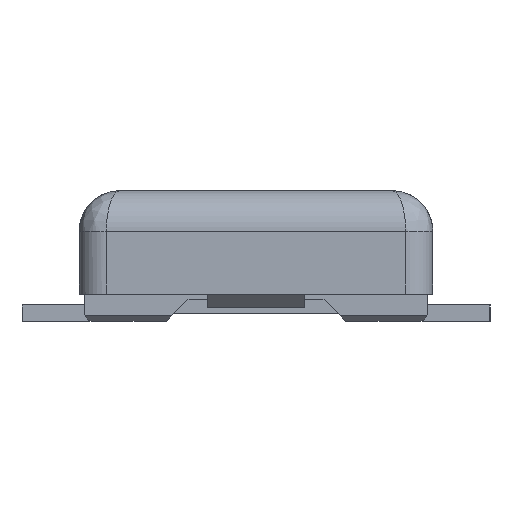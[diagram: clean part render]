
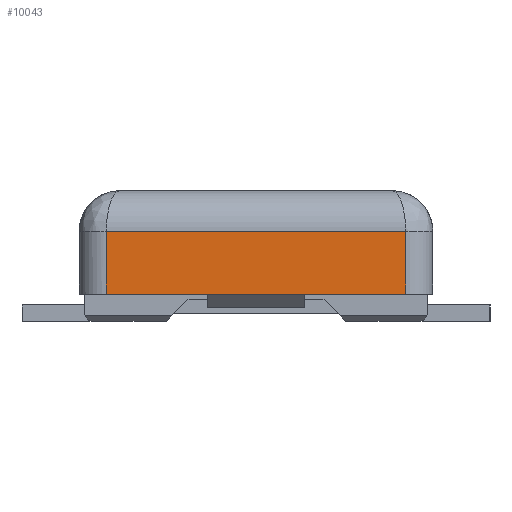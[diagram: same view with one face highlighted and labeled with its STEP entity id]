
A CAD part, left-side view. The second image highlights one B-rep face of the part: STEP entity #10043.
In plain terms, the highlighted planar face has unit normal (-1, 0, 0).
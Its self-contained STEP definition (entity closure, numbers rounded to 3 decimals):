
#10000=AXIS2_PLACEMENT_3D('Plane Axis2P3D',#9997,#9998,#9999) ;
#8671=CARTESIAN_POINT('Vertex',(-11.64,0.55,0.93)) ;
#8674=CARTESIAN_POINT('Line Origine',(-11.64,0.,0.93)) ;
#8678=CARTESIAN_POINT('Vertex',(-11.64,-0.55,0.93)) ;
#9997=CARTESIAN_POINT('Axis2P3D Location',(-11.64,0.,1.2)) ;
#10002=CARTESIAN_POINT('Line Origine',(-11.64,0.,0.7)) ;
#10006=CARTESIAN_POINT('Vertex',(-11.64,0.18,0.7)) ;
#10008=CARTESIAN_POINT('Vertex',(-11.64,-0.18,0.7)) ;
#10011=CARTESIAN_POINT('Line Origine',(-11.64,-0.365,0.7)) ;
#10015=CARTESIAN_POINT('Vertex',(-11.64,-0.55,0.7)) ;
#10018=CARTESIAN_POINT('Line Origine',(-11.64,-0.55,0.815)) ;
#10023=CARTESIAN_POINT('Line Origine',(-11.64,0.55,0.815)) ;
#10027=CARTESIAN_POINT('Vertex',(-11.64,0.55,0.7)) ;
#10030=CARTESIAN_POINT('Line Origine',(-11.64,0.365,0.7)) ;
#8675=DIRECTION('Vector Direction',(0.,-1.,0.)) ;
#9998=DIRECTION('Axis2P3D Direction',(1.,0.,0.)) ;
#9999=DIRECTION('Axis2P3D XDirection',(0.,-1.,0.)) ;
#10003=DIRECTION('Vector Direction',(0.,1.,0.)) ;
#10012=DIRECTION('Vector Direction',(0.,1.,0.)) ;
#10019=DIRECTION('Vector Direction',(0.,0.,1.)) ;
#10024=DIRECTION('Vector Direction',(0.,0.,1.)) ;
#10031=DIRECTION('Vector Direction',(0.,1.,0.)) ;
#8676=VECTOR('Line Direction',#8675,1.) ;
#10004=VECTOR('Line Direction',#10003,1.) ;
#10013=VECTOR('Line Direction',#10012,1.) ;
#10020=VECTOR('Line Direction',#10019,1.) ;
#10025=VECTOR('Line Direction',#10024,1.) ;
#10032=VECTOR('Line Direction',#10031,1.) ;
#10036=ORIENTED_EDGE('',*,*,#10010,.T.) ;
#10037=ORIENTED_EDGE('',*,*,#10017,.F.) ;
#10038=ORIENTED_EDGE('',*,*,#10022,.F.) ;
#10039=ORIENTED_EDGE('',*,*,#8680,.T.) ;
#10040=ORIENTED_EDGE('',*,*,#10029,.F.) ;
#10041=ORIENTED_EDGE('',*,*,#10034,.F.) ;
#10043=ADVANCED_FACE('\X2\FF8AFF9FFF70FF82\X0\ \X2\FF8EFF9EFF83FF9EFF68FF70\X0\',(#10042),#10001,.F.) ;
#8680=EDGE_CURVE('',#8679,#8672,#8677,.F.) ;
#10010=EDGE_CURVE('',#10007,#10009,#10005,.F.) ;
#10017=EDGE_CURVE('',#10016,#10009,#10014,.T.) ;
#10022=EDGE_CURVE('',#8679,#10016,#10021,.F.) ;
#10029=EDGE_CURVE('',#10028,#8672,#10026,.T.) ;
#10034=EDGE_CURVE('',#10007,#10028,#10033,.T.) ;
#10035=EDGE_LOOP('',(#10036,#10037,#10038,#10039,#10040,#10041)) ;
#10042=FACE_OUTER_BOUND('',#10035,.T.) ;
#8677=LINE('Line',#8674,#8676) ;
#10005=LINE('Line',#10002,#10004) ;
#10014=LINE('Line',#10011,#10013) ;
#10021=LINE('Line',#10018,#10020) ;
#10026=LINE('Line',#10023,#10025) ;
#10033=LINE('Line',#10030,#10032) ;
#10001=PLANE('Plane',#10000) ;
#8672=VERTEX_POINT('',#8671) ;
#8679=VERTEX_POINT('',#8678) ;
#10007=VERTEX_POINT('',#10006) ;
#10009=VERTEX_POINT('',#10008) ;
#10016=VERTEX_POINT('',#10015) ;
#10028=VERTEX_POINT('',#10027) ;
